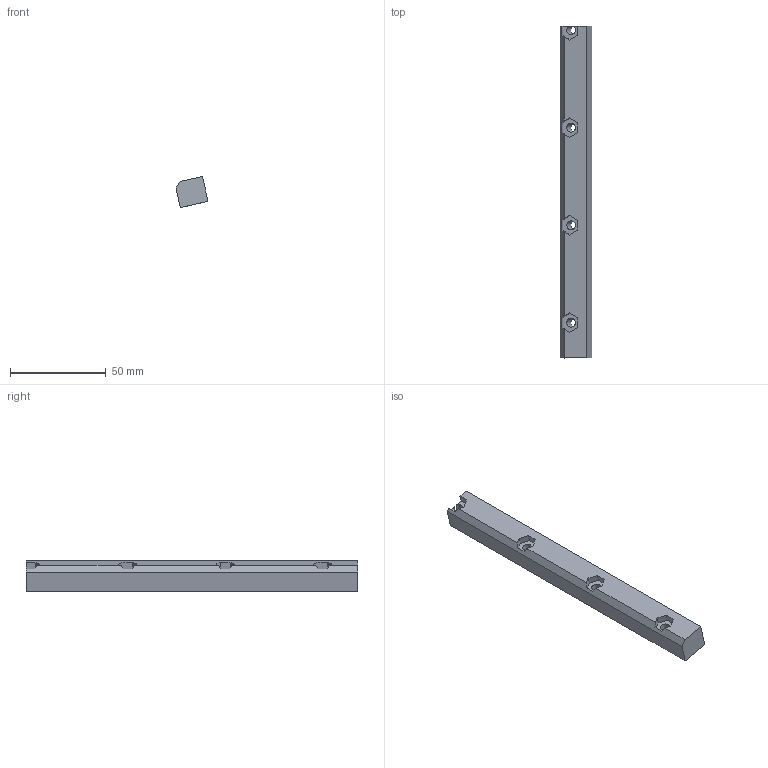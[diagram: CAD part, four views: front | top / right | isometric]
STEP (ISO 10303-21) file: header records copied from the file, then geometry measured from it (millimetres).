
FILE_DESCRIPTION(('Open CASCADE Model'),'2;1');
FILE_NAME('Open CASCADE Shape Model','2026-10-17T22:15:36',('Author'),( 'Open CASCADE'),'Open CASCADE STEP processor 7.9','Open CASCADE 7.9' ,'Unknown');
FILE_SCHEMA(('AUTOMOTIVE_DESIGN { 1 0 10303 214 1 1 1 1 }'));
Length unit declared in the file: millimetre
Products named in the file (1): Open CASCADE STEP translator 7.9 2
Bounding box: 16.67 x 173 x 16.16 mm (x, y, z)
Volume: 31655.9 mm3; surface area: 10511 mm2
Topology: 1 solids, 1 shells, 38 faces, 108 edges, 72 vertices
Faces by surface type: plane 34, cylinder 4
Full cylindrical faces by diameter (mm): 4.6 x3
Entity records: 2670 total; most frequent: CARTESIAN_POINT 483, DIRECTION 402, LINE 308, VECTOR 308, ORIENTED_EDGE 216, PCURVE 216, DEFINITIONAL_REPRESENTATION 216, EDGE_CURVE 108
